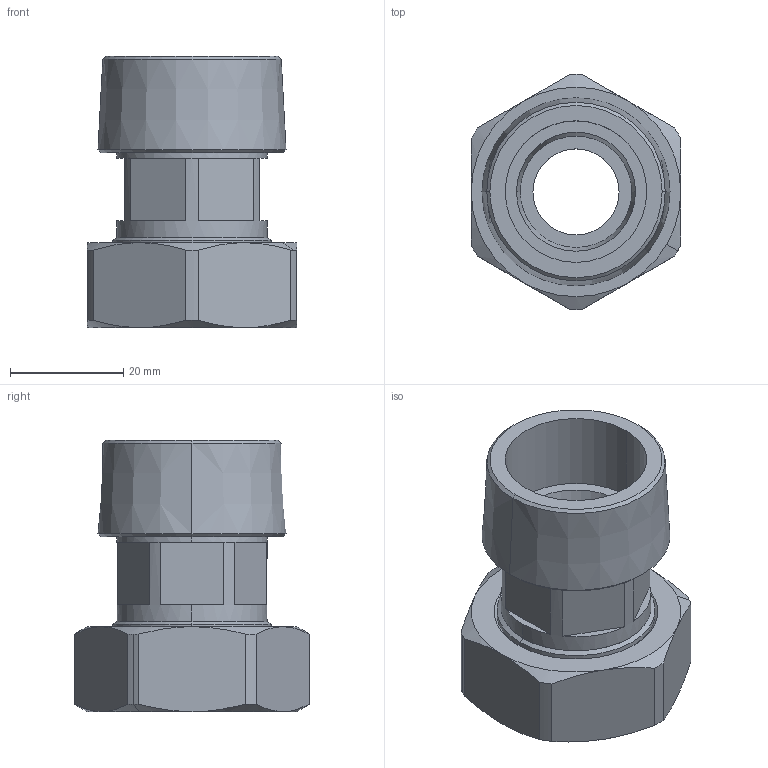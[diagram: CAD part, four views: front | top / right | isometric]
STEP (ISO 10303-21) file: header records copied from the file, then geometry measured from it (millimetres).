
FILE_DESCRIPTION (( 'STEP AP214' ), '1' );
FILE_NAME ('Z³o¿enie1.STEP', '2022-12-12T14:25:24', ( '' ), ( '' ), 'SwSTEP 2.0', 'SolidWorks 2022', '' );
FILE_SCHEMA (( 'AUTOMOTIVE_DESIGN' ));
Length unit declared in the file: millimetre
Products named in the file (3): Złożenie1; 1; 1inch
Assembly tree (2 placements, depth 2):
  Złożenie1
    1
    1inch
Bounding box: 37 x 41.49 x 47.9 mm (x, y, z)
Volume: 18169.1 mm3; surface area: 13027 mm2
Topology: 2 solids, 2 shells, 112 faces, 257 edges, 158 vertices
Faces by surface type: cylinder 40, plane 38, cone 31, bspline 3
Entity records: 4794 total; most frequent: CARTESIAN_POINT 2224, DIRECTION 524, ORIENTED_EDGE 514, EDGE_CURVE 257, AXIS2_PLACEMENT_3D 216, VERTEX_POINT 158, EDGE_LOOP 125, ADVANCED_FACE 112
